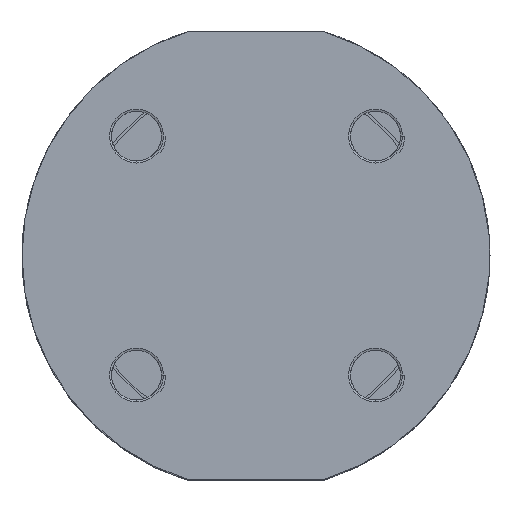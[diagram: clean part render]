
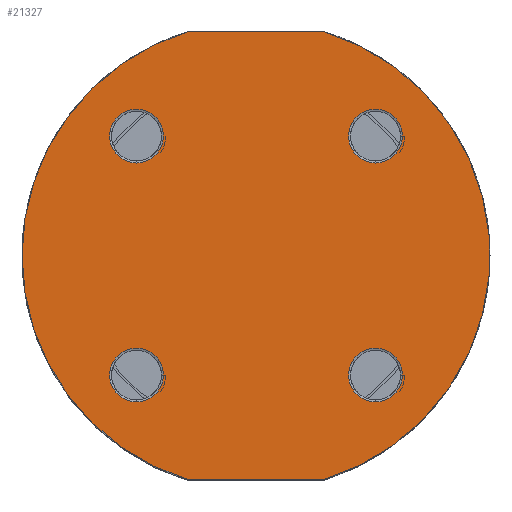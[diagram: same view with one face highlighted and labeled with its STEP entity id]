
A CAD part, front view. The second image highlights one B-rep face of the part: STEP entity #21327.
In plain terms, the highlighted planar face has unit normal (0, -1, 0).
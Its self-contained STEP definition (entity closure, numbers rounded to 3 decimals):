
#65 = AXIS2_PLACEMENT_3D ( 'NONE', #11027, #15028, #14875 ) ;
#170 = EDGE_CURVE ( 'NONE', #10729, #21065, #9740, .T. ) ;
#172 = AXIS2_PLACEMENT_3D ( 'NONE', #17820, #12391, #8344 ) ;
#187 = CARTESIAN_POINT ( 'NONE',  ( -12., -50.25, -12. ) ) ;
#344 = EDGE_LOOP ( 'NONE', ( #4125, #15089 ) ) ;
#446 = DIRECTION ( 'NONE',  ( 1., 0., 0. ) ) ;
#503 = VERTEX_POINT ( 'NONE', #20081 ) ;
#575 = EDGE_CURVE ( 'NONE', #1978, #16212, #15694, .T. ) ;
#728 = DIRECTION ( 'NONE',  ( -1., 0., 0. ) ) ;
#785 = EDGE_CURVE ( 'NONE', #23784, #20431, #1717, .T. ) ;
#1254 = ORIENTED_EDGE ( 'NONE', *, *, #24392, .T. ) ;
#1717 = CIRCLE ( 'NONE', #10454, 2.7 ) ;
#1760 = EDGE_CURVE ( 'NONE', #11737, #23096, #2209, .T. ) ;
#1978 = VERTEX_POINT ( 'NONE', #23933 ) ;
#2128 = CARTESIAN_POINT ( 'NONE',  ( -6.782, -50.25, -22.5 ) ) ;
#2209 = LINE ( 'NONE', #14899, #13769 ) ;
#2306 = DIRECTION ( 'NONE',  ( 1., 0., 0. ) ) ;
#2798 = CARTESIAN_POINT ( 'NONE',  ( 0., -50.25, 0. ) ) ;
#3804 = ORIENTED_EDGE ( 'NONE', *, *, #8426, .T. ) ;
#3874 = VERTEX_POINT ( 'NONE', #16897 ) ;
#4125 = ORIENTED_EDGE ( 'NONE', *, *, #17959, .T. ) ;
#4190 = CARTESIAN_POINT ( 'NONE',  ( 12., -50.25, -12. ) ) ;
#4394 = DIRECTION ( 'NONE',  ( -1., 0., 0. ) ) ;
#5070 = CARTESIAN_POINT ( 'NONE',  ( -9.3, -50.25, -12. ) ) ;
#5126 = AXIS2_PLACEMENT_3D ( 'NONE', #11729, #9750, #2306 ) ;
#5307 = CIRCLE ( 'NONE', #15601, 23.5 ) ;
#5402 = CIRCLE ( 'NONE', #15261, 2.7 ) ;
#5762 = EDGE_CURVE ( 'NONE', #3874, #23662, #22819, .T. ) ;
#5861 = DIRECTION ( 'NONE',  ( 1., 0., 0. ) ) ;
#6428 = EDGE_LOOP ( 'NONE', ( #8013, #8778 ) ) ;
#6674 = CIRCLE ( 'NONE', #172, 2.7 ) ;
#7189 = CIRCLE ( 'NONE', #17670, 2.7 ) ;
#7327 = ORIENTED_EDGE ( 'NONE', *, *, #575, .T. ) ;
#7518 = CARTESIAN_POINT ( 'NONE',  ( -6.782, -50.25, 22.5 ) ) ;
#7521 = FACE_BOUND ( 'NONE', #6428, .T. ) ;
#8013 = ORIENTED_EDGE ( 'NONE', *, *, #15576, .T. ) ;
#8232 = DIRECTION ( 'NONE',  ( 0., -1., 0. ) ) ;
#8237 = CARTESIAN_POINT ( 'NONE',  ( 0., -50.25, 22.5 ) ) ;
#8344 = DIRECTION ( 'NONE',  ( 1., 0., 0. ) ) ;
#8426 = EDGE_CURVE ( 'NONE', #23096, #21536, #5307, .T. ) ;
#8778 = ORIENTED_EDGE ( 'NONE', *, *, #16990, .T. ) ;
#8818 = AXIS2_PLACEMENT_3D ( 'NONE', #14065, #8232, #728 ) ;
#9174 = AXIS2_PLACEMENT_3D ( 'NONE', #11281, #24391, #24547 ) ;
#9562 = CARTESIAN_POINT ( 'NONE',  ( 6.782, -50.25, -22.5 ) ) ;
#9740 = CIRCLE ( 'NONE', #24102, 23.5 ) ;
#9750 = DIRECTION ( 'NONE',  ( 0., 1., 0. ) ) ;
#9758 = ORIENTED_EDGE ( 'NONE', *, *, #1760, .T. ) ;
#9789 = CARTESIAN_POINT ( 'NONE',  ( 14.7, -50.25, -12. ) ) ;
#10331 = DIRECTION ( 'NONE',  ( 0., -1., 0. ) ) ;
#10454 = AXIS2_PLACEMENT_3D ( 'NONE', #187, #13435, #5861 ) ;
#10659 = DIRECTION ( 'NONE',  ( 1., 0., 0. ) ) ;
#10729 = VERTEX_POINT ( 'NONE', #7518 ) ;
#10795 = EDGE_CURVE ( 'NONE', #21065, #11737, #16433, .T. ) ;
#11027 = CARTESIAN_POINT ( 'NONE',  ( -12., -50.25, 12. ) ) ;
#11146 = DIRECTION ( 'NONE',  ( 1., 0., 0. ) ) ;
#11281 = CARTESIAN_POINT ( 'NONE',  ( 12., -50.25, -12. ) ) ;
#11729 = CARTESIAN_POINT ( 'NONE',  ( 0., -50.25, 0. ) ) ;
#11737 = VERTEX_POINT ( 'NONE', #2128 ) ;
#11957 = DIRECTION ( 'NONE',  ( 0., 1., 0. ) ) ;
#12149 = DIRECTION ( 'NONE',  ( 0., 1., 0. ) ) ;
#12161 = EDGE_LOOP ( 'NONE', ( #1254, #24237 ) ) ;
#12224 = DIRECTION ( 'NONE',  ( 1., 0., 0. ) ) ;
#12312 = DIRECTION ( 'NONE',  ( -1., 0., 0. ) ) ;
#12320 = CARTESIAN_POINT ( 'NONE',  ( 0., -50.25, 0. ) ) ;
#12391 = DIRECTION ( 'NONE',  ( 0., 1., 0. ) ) ;
#12546 = DIRECTION ( 'NONE',  ( 0., 1., 0. ) ) ;
#12654 = CARTESIAN_POINT ( 'NONE',  ( -23.5, -50.25, 0. ) ) ;
#12822 = FACE_BOUND ( 'NONE', #344, .T. ) ;
#12957 = AXIS2_PLACEMENT_3D ( 'NONE', #4190, #11957, #446 ) ;
#13088 = AXIS2_PLACEMENT_3D ( 'NONE', #22004, #12546, #10659 ) ;
#13435 = DIRECTION ( 'NONE',  ( 0., 1., 0. ) ) ;
#13634 = ORIENTED_EDGE ( 'NONE', *, *, #17328, .T. ) ;
#13769 = VECTOR ( 'NONE', #18440, 1000. ) ;
#13838 = DIRECTION ( 'NONE',  ( 0., -1., 0. ) ) ;
#14065 = CARTESIAN_POINT ( 'NONE',  ( 0., -50.25, 0. ) ) ;
#14339 = FACE_BOUND ( 'NONE', #12161, .T. ) ;
#14464 = CARTESIAN_POINT ( 'NONE',  ( -14.7, -50.25, -12. ) ) ;
#14569 = CIRCLE ( 'NONE', #65, 2.7 ) ;
#14875 = DIRECTION ( 'NONE',  ( 1., 0., 0. ) ) ;
#14899 = CARTESIAN_POINT ( 'NONE',  ( 0., -50.25, -22.5 ) ) ;
#14940 = FACE_BOUND ( 'NONE', #21092, .T. ) ;
#15028 = DIRECTION ( 'NONE',  ( 0., 1., 0. ) ) ;
#15089 = ORIENTED_EDGE ( 'NONE', *, *, #5762, .T. ) ;
#15261 = AXIS2_PLACEMENT_3D ( 'NONE', #23582, #12149, #12224 ) ;
#15347 = VERTEX_POINT ( 'NONE', #15521 ) ;
#15521 = CARTESIAN_POINT ( 'NONE',  ( 9.3, -50.25, 12. ) ) ;
#15576 = EDGE_CURVE ( 'NONE', #15347, #503, #6674, .T. ) ;
#15601 = AXIS2_PLACEMENT_3D ( 'NONE', #12320, #13838, #4394 ) ;
#15694 = CIRCLE ( 'NONE', #9174, 2.7 ) ;
#16069 = DIRECTION ( 'NONE',  ( -1., 0., 0. ) ) ;
#16212 = VERTEX_POINT ( 'NONE', #9789 ) ;
#16433 = CIRCLE ( 'NONE', #8818, 23.5 ) ;
#16492 = DIRECTION ( 'NONE',  ( 0., 1., 0. ) ) ;
#16508 = CIRCLE ( 'NONE', #12957, 2.7 ) ;
#16897 = CARTESIAN_POINT ( 'NONE',  ( -9.3, -50.25, 12. ) ) ;
#16990 = EDGE_CURVE ( 'NONE', #503, #15347, #7189, .T. ) ;
#17136 = CARTESIAN_POINT ( 'NONE',  ( -14.7, -50.25, 12. ) ) ;
#17328 = EDGE_CURVE ( 'NONE', #21536, #10729, #20802, .T. ) ;
#17643 = CARTESIAN_POINT ( 'NONE',  ( 6.782, -50.25, 22.5 ) ) ;
#17670 = AXIS2_PLACEMENT_3D ( 'NONE', #20869, #16492, #11146 ) ;
#17820 = CARTESIAN_POINT ( 'NONE',  ( 12., -50.25, 12. ) ) ;
#17959 = EDGE_CURVE ( 'NONE', #23662, #3874, #14569, .T. ) ;
#18047 = ORIENTED_EDGE ( 'NONE', *, *, #10795, .T. ) ;
#18440 = DIRECTION ( 'NONE',  ( 1., 0., 0. ) ) ;
#20081 = CARTESIAN_POINT ( 'NONE',  ( 14.7, -50.25, 12. ) ) ;
#20328 = EDGE_CURVE ( 'NONE', #16212, #1978, #16508, .T. ) ;
#20431 = VERTEX_POINT ( 'NONE', #14464 ) ;
#20802 = LINE ( 'NONE', #8237, #21980 ) ;
#20869 = CARTESIAN_POINT ( 'NONE',  ( 12., -50.25, 12. ) ) ;
#20929 = EDGE_LOOP ( 'NONE', ( #3804, #13634, #23373, #18047, #9758 ) ) ;
#21065 = VERTEX_POINT ( 'NONE', #12654 ) ;
#21092 = EDGE_LOOP ( 'NONE', ( #7327, #22440 ) ) ;
#21327 = ADVANCED_FACE ( 'NONE', ( #14339, #12822, #7521, #14940, #22626 ), #21364, .F. ) ;
#21364 = PLANE ( 'NONE',  #5126 ) ;
#21536 = VERTEX_POINT ( 'NONE', #17643 ) ;
#21980 = VECTOR ( 'NONE', #16069, 1000. ) ;
#22004 = CARTESIAN_POINT ( 'NONE',  ( -12., -50.25, 12. ) ) ;
#22440 = ORIENTED_EDGE ( 'NONE', *, *, #20328, .T. ) ;
#22626 = FACE_OUTER_BOUND ( 'NONE', #20929, .T. ) ;
#22819 = CIRCLE ( 'NONE', #13088, 2.7 ) ;
#23096 = VERTEX_POINT ( 'NONE', #9562 ) ;
#23373 = ORIENTED_EDGE ( 'NONE', *, *, #170, .T. ) ;
#23582 = CARTESIAN_POINT ( 'NONE',  ( -12., -50.25, -12. ) ) ;
#23662 = VERTEX_POINT ( 'NONE', #17136 ) ;
#23784 = VERTEX_POINT ( 'NONE', #5070 ) ;
#23933 = CARTESIAN_POINT ( 'NONE',  ( 9.3, -50.25, -12. ) ) ;
#24102 = AXIS2_PLACEMENT_3D ( 'NONE', #2798, #10331, #12312 ) ;
#24237 = ORIENTED_EDGE ( 'NONE', *, *, #785, .T. ) ;
#24391 = DIRECTION ( 'NONE',  ( 0., 1., 0. ) ) ;
#24392 = EDGE_CURVE ( 'NONE', #20431, #23784, #5402, .T. ) ;
#24547 = DIRECTION ( 'NONE',  ( 1., 0., 0. ) ) ;
